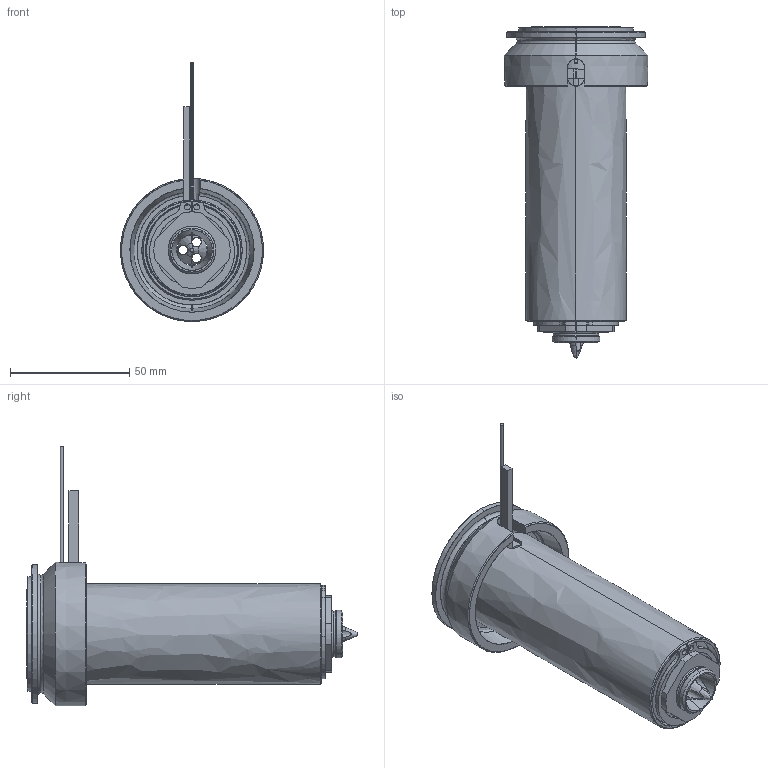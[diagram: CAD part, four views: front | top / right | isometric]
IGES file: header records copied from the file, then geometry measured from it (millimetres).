
Start section: SolidWorks IGES file using analytic representation for surfaces
Global section: file name: C:\Documents and Settings\ws-20\Desktop\TEM\UGEP6005-M-A-0 [Øf-1.3 ØC-17].IGS; native system: SolidWorks 2012; preprocessor: SolidWorks 2012; author: ws-20; date: 120427.094703; units: millimetre
Bounding box: 60 x 139.05 x 108.65 mm (x, y, z)
Surface area: 66998.6 mm2 (no closed solid volume)
Topology: 0 solids, 0 shells, 129 faces, 2291 edges, 2291 vertices
Faces by surface type: revolution 83, bspline 46
